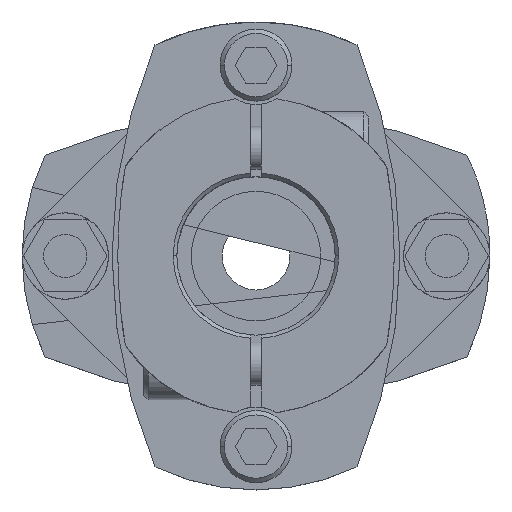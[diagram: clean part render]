
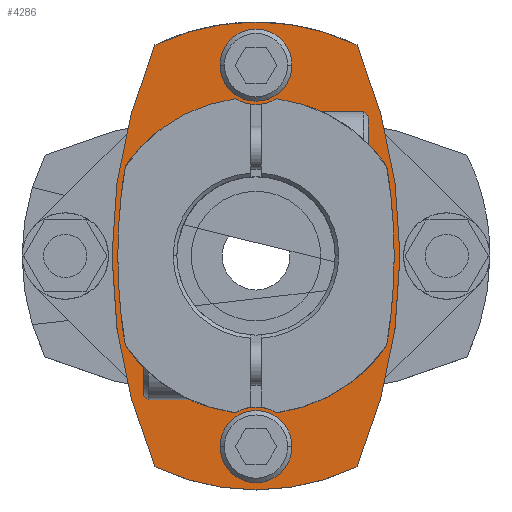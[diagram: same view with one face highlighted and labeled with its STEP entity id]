
A CAD part, top view. The second image highlights one B-rep face of the part: STEP entity #4286.
In plain terms, the highlighted planar face has unit normal (0, 0, 1).
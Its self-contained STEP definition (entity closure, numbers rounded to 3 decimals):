
#1172=CARTESIAN_POINT('',(-20.,0.,9.75));
#1173=VERTEX_POINT('',#1172);
#1189=CARTESIAN_POINT('',(-14.034,-29.314,9.75));
#1190=VERTEX_POINT('',#1189);
#1197=CARTESIAN_POINT('',(55.,0.,9.75));
#1198=DIRECTION('',(0.0,0.0,-1.0));
#1199=DIRECTION('',(-1.0,0.0,0.0));
#1200=AXIS2_PLACEMENT_3D('',#1197,#1198,#1199);
#1201=CIRCLE('',#1200,75.);
#1202=EDGE_CURVE('',#1190,#1173,#1201,.T.);
#1212=CARTESIAN_POINT('',(20.,0.,9.75));
#1213=VERTEX_POINT('',#1212);
#1222=CARTESIAN_POINT('',(14.034,-29.314,9.75));
#1223=VERTEX_POINT('',#1222);
#1224=CARTESIAN_POINT('',(-55.,0.,9.75));
#1225=DIRECTION('',(0.0,0.0,-1.0));
#1226=DIRECTION('',(-1.0,0.0,0.0));
#1227=AXIS2_PLACEMENT_3D('',#1224,#1225,#1226);
#1228=CIRCLE('',#1227,75.);
#1229=EDGE_CURVE('',#1213,#1223,#1228,.T.);
#1254=CARTESIAN_POINT('',(-19.2,0.,9.75));
#1255=VERTEX_POINT('',#1254);
#1264=CARTESIAN_POINT('',(-18.151,-12.431,9.75));
#1265=VERTEX_POINT('',#1264);
#1266=CARTESIAN_POINT('',(55.,0.,9.75));
#1267=DIRECTION('',(0.0,0.0,-1.0));
#1268=DIRECTION('',(-1.0,0.0,0.0));
#1269=AXIS2_PLACEMENT_3D('',#1266,#1267,#1268);
#1270=CIRCLE('',#1269,74.2);
#1271=EDGE_CURVE('',#1265,#1255,#1270,.T.);
#1416=CARTESIAN_POINT('',(19.2,0.,9.75));
#1417=VERTEX_POINT('',#1416);
#1467=CARTESIAN_POINT('',(18.151,-12.431,9.75));
#1468=VERTEX_POINT('',#1467);
#1475=CARTESIAN_POINT('',(-55.,0.,9.75));
#1476=DIRECTION('',(0.0,0.0,-1.0));
#1477=DIRECTION('',(-1.0,0.0,0.0));
#1478=AXIS2_PLACEMENT_3D('',#1475,#1476,#1477);
#1479=CIRCLE('',#1478,74.2);
#1480=EDGE_CURVE('',#1417,#1468,#1479,.T.);
#1674=CARTESIAN_POINT('',(-5.,-26.5,9.75));
#1675=VERTEX_POINT('',#1674);
#1684=CARTESIAN_POINT('',(5.,-26.5,9.75));
#1685=VERTEX_POINT('',#1684);
#1686=CARTESIAN_POINT('',(0.,-26.5,9.75));
#1687=DIRECTION('',(0.0,0.0,-1.0));
#1688=DIRECTION('',(-1.0,0.0,0.0));
#1689=AXIS2_PLACEMENT_3D('',#1686,#1687,#1688);
#1690=CIRCLE('',#1689,5.0);
#1691=EDGE_CURVE('',#1685,#1675,#1690,.T.);
#1748=CARTESIAN_POINT('',(-5.,26.5,9.75));
#1749=VERTEX_POINT('',#1748);
#1758=CARTESIAN_POINT('',(5.,26.5,9.75));
#1759=VERTEX_POINT('',#1758);
#1760=CARTESIAN_POINT('',(0.,26.5,9.75));
#1761=DIRECTION('',(0.0,0.0,-1.0));
#1762=DIRECTION('',(-1.0,0.0,0.0));
#1763=AXIS2_PLACEMENT_3D('',#1760,#1761,#1762);
#1764=CIRCLE('',#1763,5.0);
#1765=EDGE_CURVE('',#1759,#1749,#1764,.T.);
#3375=CARTESIAN_POINT('',(0.,26.5,9.75));
#3376=DIRECTION('',(0.0,0.0,-1.0));
#3377=DIRECTION('',(-1.0,0.0,0.0));
#3378=AXIS2_PLACEMENT_3D('',#3375,#3376,#3377);
#3379=CIRCLE('',#3378,5.0);
#3380=EDGE_CURVE('',#1749,#1759,#3379,.T.);
#3477=CARTESIAN_POINT('',(0.,-26.5,9.75));
#3478=DIRECTION('',(0.0,0.0,-1.0));
#3479=DIRECTION('',(-1.0,0.0,0.0));
#3480=AXIS2_PLACEMENT_3D('',#3477,#3478,#3479);
#3481=CIRCLE('',#3480,5.0);
#3482=EDGE_CURVE('',#1675,#1685,#3481,.T.);
#3945=CARTESIAN_POINT('',(2.875,-21.811,9.75));
#3946=VERTEX_POINT('',#3945);
#3962=CARTESIAN_POINT('',(-2.875,-21.811,9.75));
#3963=VERTEX_POINT('',#3962);
#3970=CARTESIAN_POINT('',(0.,-26.5,9.75));
#3971=DIRECTION('',(0.0,0.0,1.0));
#3972=DIRECTION('',(-1.0,0.0,0.0));
#3973=AXIS2_PLACEMENT_3D('',#3970,#3971,#3972);
#3974=CIRCLE('',#3973,5.5);
#3975=EDGE_CURVE('',#3946,#3963,#3974,.T.);
#4062=CARTESIAN_POINT('',(-2.875,21.811,9.75));
#4063=VERTEX_POINT('',#4062);
#4079=CARTESIAN_POINT('',(2.875,21.811,9.75));
#4080=VERTEX_POINT('',#4079);
#4087=CARTESIAN_POINT('',(0.,26.5,9.75));
#4088=DIRECTION('',(0.0,0.0,1.0));
#4089=DIRECTION('',(-1.0,0.0,0.0));
#4090=AXIS2_PLACEMENT_3D('',#4087,#4088,#4089);
#4091=CIRCLE('',#4090,5.5);
#4092=EDGE_CURVE('',#4063,#4080,#4091,.T.);
#4111=CARTESIAN_POINT('',(0.,0.,9.75));
#4112=DIRECTION('',(0.0,0.0,-1.0));
#4113=DIRECTION('',(-1.0,0.0,0.0));
#4114=AXIS2_PLACEMENT_3D('',#4111,#4112,#4113);
#4115=CIRCLE('',#4114,22.);
#4116=EDGE_CURVE('',#3963,#1265,#4115,.T.);
#4191=CARTESIAN_POINT('',(0.,0.,9.75));
#4192=DIRECTION('',(0.0,0.0,1.0));
#4193=DIRECTION('',(-1.0,0.0,0.0));
#4194=AXIS2_PLACEMENT_3D('',#4191,#4192,#4193);
#4195=PLANE('',#4194);
#4196=CARTESIAN_POINT('',(14.034,29.314,9.75));
#4197=VERTEX_POINT('',#4196);
#4198=CARTESIAN_POINT('',(-55.,0.,9.75));
#4199=DIRECTION('',(0.0,0.0,-1.0));
#4200=DIRECTION('',(-1.0,0.0,0.0));
#4201=AXIS2_PLACEMENT_3D('',#4198,#4199,#4200);
#4202=CIRCLE('',#4201,75.);
#4203=EDGE_CURVE('',#4197,#1213,#4202,.T.);
#4204=ORIENTED_EDGE('',*,*,#4203,.F.);
#4205=CARTESIAN_POINT('',(-14.034,29.314,9.75));
#4206=VERTEX_POINT('',#4205);
#4207=CARTESIAN_POINT('',(0.0,0.,9.75));
#4208=DIRECTION('',(0.0,0.0,-1.0));
#4209=DIRECTION('',(-1.0,0.0,0.0));
#4210=AXIS2_PLACEMENT_3D('',#4207,#4208,#4209);
#4211=CIRCLE('',#4210,32.5);
#4212=EDGE_CURVE('',#4206,#4197,#4211,.T.);
#4213=ORIENTED_EDGE('',*,*,#4212,.F.);
#4214=CARTESIAN_POINT('',(55.,0.,9.75));
#4215=DIRECTION('',(0.0,0.0,-1.0));
#4216=DIRECTION('',(-1.0,0.0,0.0));
#4217=AXIS2_PLACEMENT_3D('',#4214,#4215,#4216);
#4218=CIRCLE('',#4217,75.);
#4219=EDGE_CURVE('',#1173,#4206,#4218,.T.);
#4220=ORIENTED_EDGE('',*,*,#4219,.F.);
#4221=ORIENTED_EDGE('',*,*,#1202,.F.);
#4222=CARTESIAN_POINT('',(0.0,0.,9.75));
#4223=DIRECTION('',(0.0,0.0,-1.0));
#4224=DIRECTION('',(-1.0,0.0,0.0));
#4225=AXIS2_PLACEMENT_3D('',#4222,#4223,#4224);
#4226=CIRCLE('',#4225,32.5);
#4227=EDGE_CURVE('',#1223,#1190,#4226,.T.);
#4228=ORIENTED_EDGE('',*,*,#4227,.F.);
#4229=ORIENTED_EDGE('',*,*,#1229,.F.);
#4230=EDGE_LOOP('',(#4204,#4213,#4220,#4221,#4228,#4229));
#4231=FACE_OUTER_BOUND('',#4230,.T.);
#4232=ORIENTED_EDGE('',*,*,#3482,.T.);
#4233=ORIENTED_EDGE('',*,*,#1691,.T.);
#4234=EDGE_LOOP('',(#4232,#4233));
#4235=FACE_BOUND('',#4234,.T.);
#4236=ORIENTED_EDGE('',*,*,#3380,.T.);
#4237=ORIENTED_EDGE('',*,*,#1765,.T.);
#4238=EDGE_LOOP('',(#4236,#4237));
#4239=FACE_BOUND('',#4238,.T.);
#4240=ORIENTED_EDGE('',*,*,#4116,.T.);
#4241=ORIENTED_EDGE('',*,*,#1271,.T.);
#4242=CARTESIAN_POINT('',(-18.151,12.431,9.75));
#4243=VERTEX_POINT('',#4242);
#4244=CARTESIAN_POINT('',(55.,0.,9.75));
#4245=DIRECTION('',(0.0,0.0,-1.0));
#4246=DIRECTION('',(-1.0,0.0,0.0));
#4247=AXIS2_PLACEMENT_3D('',#4244,#4245,#4246);
#4248=CIRCLE('',#4247,74.2);
#4249=EDGE_CURVE('',#1255,#4243,#4248,.T.);
#4250=ORIENTED_EDGE('',*,*,#4249,.T.);
#4251=CARTESIAN_POINT('',(0.,0.,9.75));
#4252=DIRECTION('',(0.0,0.0,-1.0));
#4253=DIRECTION('',(-1.0,0.0,0.0));
#4254=AXIS2_PLACEMENT_3D('',#4251,#4252,#4253);
#4255=CIRCLE('',#4254,22.);
#4256=EDGE_CURVE('',#4243,#4063,#4255,.T.);
#4257=ORIENTED_EDGE('',*,*,#4256,.T.);
#4258=ORIENTED_EDGE('',*,*,#4092,.T.);
#4259=CARTESIAN_POINT('',(18.151,12.431,9.75));
#4260=VERTEX_POINT('',#4259);
#4261=CARTESIAN_POINT('',(0.,0.,9.75));
#4262=DIRECTION('',(0.0,0.0,-1.0));
#4263=DIRECTION('',(-1.0,0.0,0.0));
#4264=AXIS2_PLACEMENT_3D('',#4261,#4262,#4263);
#4265=CIRCLE('',#4264,22.);
#4266=EDGE_CURVE('',#4080,#4260,#4265,.T.);
#4267=ORIENTED_EDGE('',*,*,#4266,.T.);
#4268=CARTESIAN_POINT('',(-55.,0.,9.75));
#4269=DIRECTION('',(0.0,0.0,-1.0));
#4270=DIRECTION('',(-1.0,0.0,0.0));
#4271=AXIS2_PLACEMENT_3D('',#4268,#4269,#4270);
#4272=CIRCLE('',#4271,74.2);
#4273=EDGE_CURVE('',#4260,#1417,#4272,.T.);
#4274=ORIENTED_EDGE('',*,*,#4273,.T.);
#4275=ORIENTED_EDGE('',*,*,#1480,.T.);
#4276=CARTESIAN_POINT('',(0.,0.,9.75));
#4277=DIRECTION('',(0.0,0.0,-1.0));
#4278=DIRECTION('',(-1.0,0.0,0.0));
#4279=AXIS2_PLACEMENT_3D('',#4276,#4277,#4278);
#4280=CIRCLE('',#4279,22.);
#4281=EDGE_CURVE('',#1468,#3946,#4280,.T.);
#4282=ORIENTED_EDGE('',*,*,#4281,.T.);
#4283=ORIENTED_EDGE('',*,*,#3975,.T.);
#4284=EDGE_LOOP('',(#4240,#4241,#4250,#4257,#4258,#4267,#4274,#4275,#4282,#4283));
#4285=FACE_BOUND('',#4284,.T.);
#4286=ADVANCED_FACE('',(#4231,#4235,#4239,#4285),#4195,.T.);
